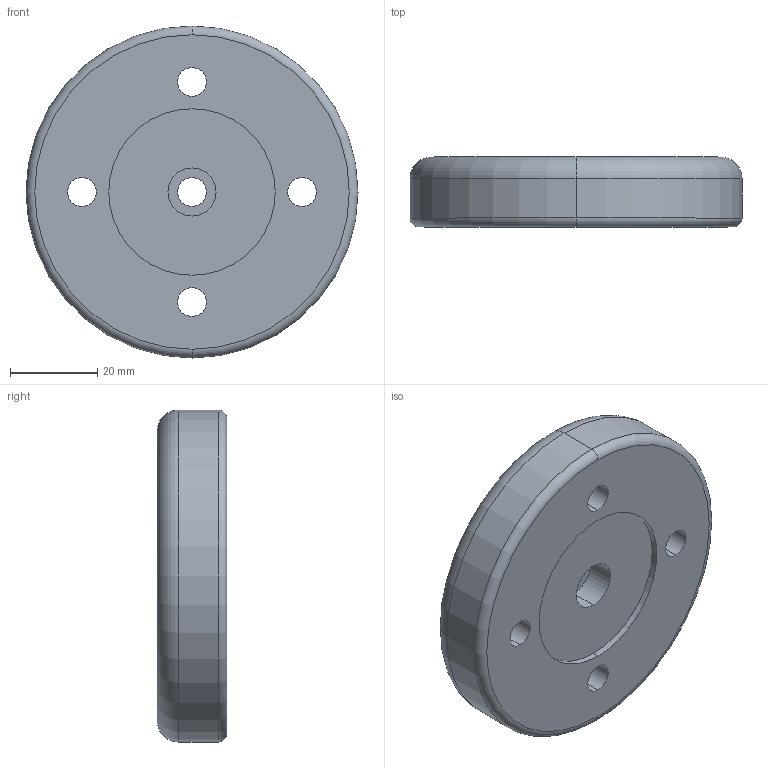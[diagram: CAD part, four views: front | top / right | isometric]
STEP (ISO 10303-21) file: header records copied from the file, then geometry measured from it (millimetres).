
FILE_DESCRIPTION (( 'STEP AP203' ), '1' );
FILE_NAME ('M-SR-B.STEP', '2017-10-03T05:50:22', ( '¦K¬P' ), ( '' ), 'SwSTEP 2.0', 'SolidWorks 2016', '' );
FILE_SCHEMA (( 'CONFIG_CONTROL_DESIGN' ));
Length unit declared in the file: millimetre
Products named in the file (1): M-SR-B
Bounding box: 76 x 16 x 76 mm (x, y, z)
Volume: 63136.6 mm3; surface area: 14218.7 mm2
Topology: 1 solids, 1 shells, 39 faces, 86 edges, 56 vertices
Faces by surface type: cylinder 26, plane 9, torus 4
Entity records: 1205 total; most frequent: DIRECTION 226, CARTESIAN_POINT 182, ORIENTED_EDGE 172, AXIS2_PLACEMENT_3D 100, EDGE_CURVE 86, CIRCLE 60, VERTEX_POINT 56, EDGE_LOOP 56
